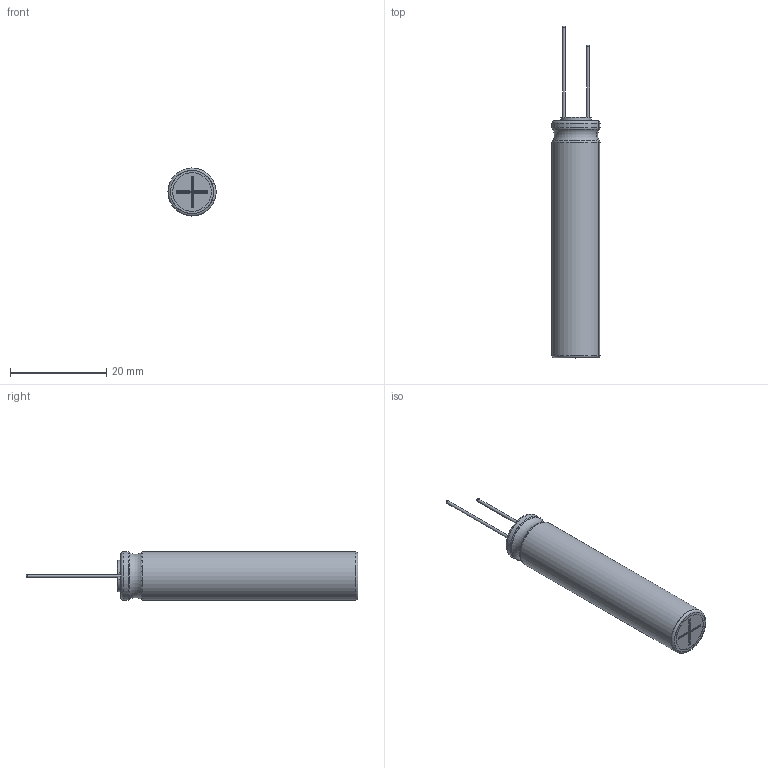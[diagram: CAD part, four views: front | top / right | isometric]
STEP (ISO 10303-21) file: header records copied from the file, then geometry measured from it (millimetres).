
FILE_DESCRIPTION(/* description */ (''),/* implementation_level */ '2;1');
FILE_NAME(/* name */ '10x50_Lead.stp',/* time_stamp */ '2017-09-05T14:17:25+09:00',/* author */ (''),/* organization */ (''),/* preprocessor_version */ 'ST-DEVELOPER v16',/* originating_system */ 'SIEMENS PLM Software NX 11.0',/* authorisation */ '');
FILE_SCHEMA (('AUTOMOTIVE_DESIGN { 1 0 10303 214 3 1 1 1 }'));
Length unit declared in the file: millimetre
Products named in the file (1): 10x50_Lead_0
Bounding box: 9.99 x 69 x 10 mm (x, y, z)
Volume: 3866 mm3; surface area: 4908.6 mm2
Topology: 3 solids, 3 shells, 115 faces, 288 edges, 181 vertices
Faces by surface type: cylinder 44, torus 33, plane 28, sphere 6, bspline 4
Full cylindrical faces by diameter (mm): 0.6 x2, 9.8 x2
Entity records: 4020 total; most frequent: CARTESIAN_POINT 680, DIRECTION 664, ORIENTED_EDGE 544, AXIS2_PLACEMENT_3D 280, EDGE_CURVE 272, VERTEX_POINT 176, CIRCLE 160, EDGE_LOOP 128
